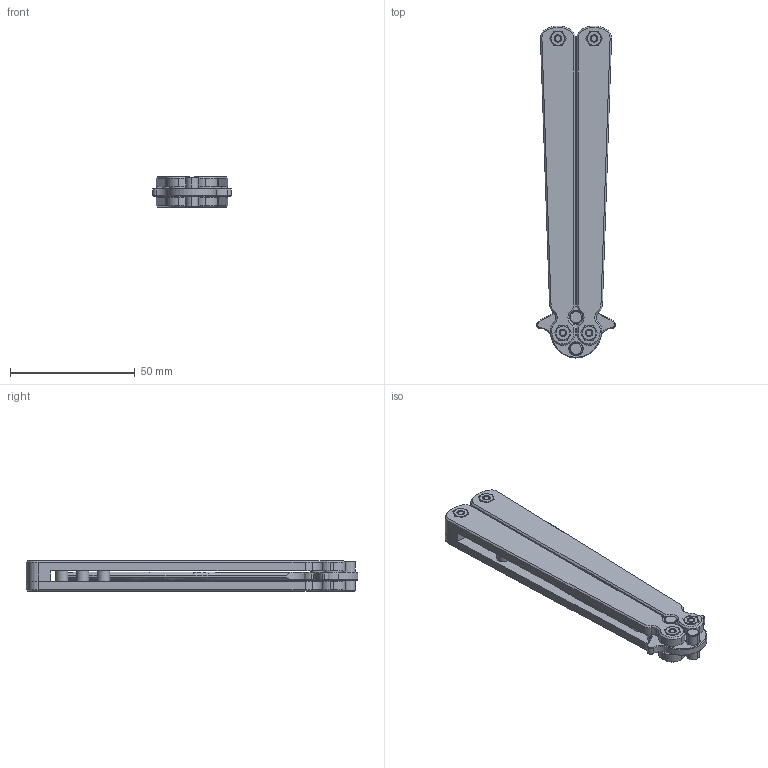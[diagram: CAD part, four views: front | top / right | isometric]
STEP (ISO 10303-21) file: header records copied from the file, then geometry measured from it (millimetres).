
FILE_DESCRIPTION (( 'STEP AP214' ), '1' );
FILE_NAME ('Balisong.STEP', '2022-10-03T14:59:59', ( '' ), ( '' ), 'SwSTEP 2.0', 'SolidWorks 2018', '' );
FILE_SCHEMA (( 'AUTOMOTIVE_DESIGN' ));
Length unit declared in the file: millimetre
Products named in the file (10): Pin_Blade Stop Pins; Handles _HandleB1; Handles _HandleB2; 91828A211_18-8 Stainless Steel Hex Nut_91828A211; Pin_Handle Pin; Balisong; Handles _HandleA2; 92095A182_Button Head Hex Drive Screw_92095A182; Handles _HandleA1; Blade
Assembly tree (21 placements, depth 2):
  Balisong
    Blade
    Handles _HandleA1
    Handles _HandleB1
    Handles _HandleB2
    Handles _HandleA2
    Pin_Handle Pin  x6
    Pin_Blade Stop Pins  x2
    92095A182_Button Head Hex Drive Screw_92095A182  x4
    91828A211_18-8 Stainless Steel Hex Nut_91828A211  x4
Bounding box: 31.5 x 132.86 x 12.3 mm (x, y, z)
Volume: 30082.3 mm3; surface area: 24647 mm2
Topology: 21 solids, 21 shells, 1225 faces, 3122 edges, 1979 vertices
Faces by surface type: cylinder 564, plane 378, cone 243, bspline 32, sphere 8
Entity records: 25569 total; most frequent: CARTESIAN_POINT 8629, ORIENTED_EDGE 3550, DIRECTION 3353, EDGE_CURVE 1775, AXIS2_PLACEMENT_3D 1188, VERTEX_POINT 1121, VECTOR 977, LINE 977
